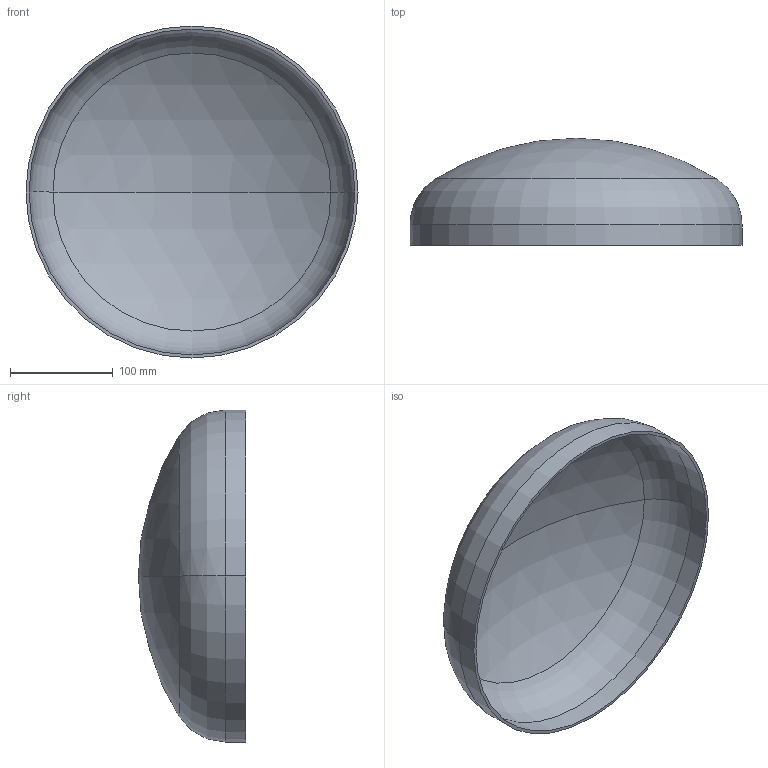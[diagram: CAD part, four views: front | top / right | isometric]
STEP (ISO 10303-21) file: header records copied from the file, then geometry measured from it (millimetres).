
FILE_DESCRIPTION (( 'STEP AP203' ), '1' );
FILE_NAME ('DIN 28013 Korbbogenform_-_Boden DIN 28013 - 323,9 x 20 - I - s=3.step', '2016-07-01T07:44:01', ( '' ), ( '' ), 'SwSTEP 2.0', 'SolidWorks 2013', '' );
FILE_SCHEMA (( 'CONFIG_CONTROL_DESIGN' ));
Length unit declared in the file: millimetre
Products named in the file (1): DIN 28013 Korbbogenform_-_Boden DIN 28013 - 323,9 x 20 - I - s=3
Bounding box: 323.9 x 104.53 x 323.9 mm (x, y, z)
Volume: 399499.3 mm3; surface area: 269376 mm2
Topology: 1 solids, 1 shells, 13 faces, 24 edges, 14 vertices
Faces by surface type: torus 4, cylinder 4, sphere 4, plane 1
Entity records: 407 total; most frequent: DIRECTION 72, CARTESIAN_POINT 52, ORIENTED_EDGE 48, AXIS2_PLACEMENT_3D 34, EDGE_CURVE 24, CIRCLE 20, VERTEX_POINT 14, EDGE_LOOP 14
